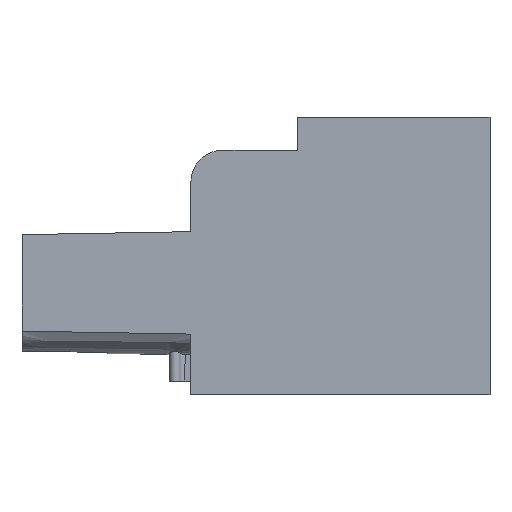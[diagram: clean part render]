
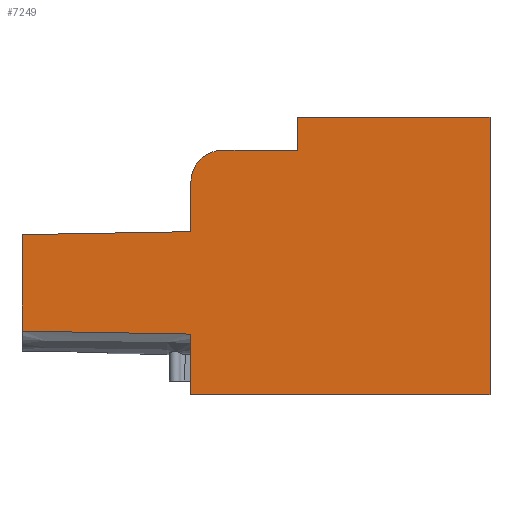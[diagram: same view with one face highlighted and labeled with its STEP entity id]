
A CAD part, front view. The second image highlights one B-rep face of the part: STEP entity #7249.
In plain terms, the highlighted planar face has unit normal (0, -1, 0).
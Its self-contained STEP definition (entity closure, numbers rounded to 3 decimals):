
#471=DIRECTION('',(1.,0.,0.));
#472=VECTOR('',#471,14.);
#473=CARTESIAN_POINT('',(7.9,6.581,-13.));
#474=LINE('',#473,#472);
#533=DIRECTION('',(0.,0.,-1.));
#534=VECTOR('',#533,2.846);
#535=CARTESIAN_POINT('',(7.9,6.581,-10.154));
#536=LINE('',#535,#534);
#586=DIRECTION('',(0.,0.,-1.));
#587=VECTOR('',#586,4.516);
#588=CARTESIAN_POINT('',(0.,6.581,-5.5));
#589=LINE('',#588,#587);
#800=DIRECTION('',(0.,0.,-1.));
#801=VECTOR('',#800,2.312);
#802=CARTESIAN_POINT('',(7.9,6.581,-3.05));
#803=LINE('',#802,#801);
#839=DIRECTION('',(-1.,0.,0.));
#840=VECTOR('',#839,3.5);
#841=CARTESIAN_POINT('',(12.9,6.581,-1.55));
#842=LINE('',#841,#840);
#869=DIRECTION('',(0.,0.,-1.));
#870=VECTOR('',#869,1.55);
#871=CARTESIAN_POINT('',(12.9,6.581,0.));
#872=LINE('',#871,#870);
#917=DIRECTION('',(-1.,0.,0.));
#918=VECTOR('',#917,9.);
#919=CARTESIAN_POINT('',(21.9,6.581,0.));
#920=LINE('',#919,#918);
#961=DIRECTION('',(0.,0.,1.));
#962=VECTOR('',#961,13.);
#963=CARTESIAN_POINT('',(21.9,6.581,-13.));
#964=LINE('',#963,#962);
#989=DIRECTION('',(-1.,0.,0.017));
#990=VECTOR('',#989,7.901);
#991=CARTESIAN_POINT('',(7.9,6.581,-10.154));
#992=LINE('',#991,#990);
#993=DIRECTION('',(1.,0.,0.017));
#994=VECTOR('',#993,7.901);
#995=CARTESIAN_POINT('',(0.,6.581,-5.5));
#996=LINE('',#995,#994);
#997=CARTESIAN_POINT('',(9.4,6.581,-3.05));
#998=DIRECTION('',(0.,1.,0.));
#999=DIRECTION('',(-1.,0.,0.));
#1000=AXIS2_PLACEMENT_3D('',#997,#998,#999);
#4672=CARTESIAN_POINT('',(0.,6.581,-5.5));
#4673=VERTEX_POINT('',#4672);
#4674=CARTESIAN_POINT('',(0.,6.581,
-10.016));
#4675=VERTEX_POINT('',#4674);
#4804=CARTESIAN_POINT('',(7.9,6.581,-3.05));
#4805=VERTEX_POINT('',#4804);
#4806=CARTESIAN_POINT('',(7.9,6.581,-5.362));
#4807=VERTEX_POINT('',#4806);
#4816=CARTESIAN_POINT('',(9.4,6.581,-1.55));
#4817=VERTEX_POINT('',#4816);
#4818=CARTESIAN_POINT('',(12.9,6.581,-1.55));
#4819=VERTEX_POINT('',#4818);
#4842=CARTESIAN_POINT('',(12.9,6.581,0.));
#4843=VERTEX_POINT('',#4842);
#4882=CARTESIAN_POINT('',(21.9,6.581,0.));
#4883=VERTEX_POINT('',#4882);
#4920=CARTESIAN_POINT('',(21.9,6.581,-13.));
#4921=VERTEX_POINT('',#4920);
#4930=CARTESIAN_POINT('',(7.9,6.581,-13.));
#4931=VERTEX_POINT('',#4930);
#4994=CARTESIAN_POINT('',(7.9,6.581,-10.154));
#4995=VERTEX_POINT('',#4994);
#7229=CARTESIAN_POINT('',(7.9,6.581,-11.));
#7230=DIRECTION('',(0.,1.,0.));
#7231=DIRECTION('',(1.,0.,0.));
#7232=AXIS2_PLACEMENT_3D('',#7229,#7230,#7231);
#7233=PLANE('',#7232);
#7234=ORIENTED_EDGE('',*,*,#6799,.F.);
#7236=ORIENTED_EDGE('',*,*,#7235,.T.);
#7237=ORIENTED_EDGE('',*,*,#6857,.F.);
#7239=ORIENTED_EDGE('',*,*,#7238,.T.);
#7240=ORIENTED_EDGE('',*,*,#7021,.F.);
#7241=ORIENTED_EDGE('',*,*,#7048,.T.);
#7242=ORIENTED_EDGE('',*,*,#7063,.F.);
#7243=ORIENTED_EDGE('',*,*,#7097,.F.);
#7244=ORIENTED_EDGE('',*,*,#7152,.F.);
#7245=ORIENTED_EDGE('',*,*,#7211,.F.);
#7246=ORIENTED_EDGE('',*,*,#6716,.F.);
#7247=EDGE_LOOP('',(#7234,#7236,#7237,#7239,#7240,#7241,#7242,#7243,#7244,#7245,
#7246));
#7248=FACE_OUTER_BOUND('',#7247,.F.);
#7249=ADVANCED_FACE('',(#7248),#7233,.F.);
#1001=CIRCLE('',#1000,1.5);
#6716=EDGE_CURVE('',#4931,#4921,#474,.T.);
#6799=EDGE_CURVE('',#4995,#4931,#536,.T.);
#6857=EDGE_CURVE('',#4673,#4675,#589,.T.);
#7021=EDGE_CURVE('',#4805,#4807,#803,.T.);
#7048=EDGE_CURVE('',#4805,#4817,#1001,.T.);
#7063=EDGE_CURVE('',#4819,#4817,#842,.T.);
#7097=EDGE_CURVE('',#4843,#4819,#872,.T.);
#7152=EDGE_CURVE('',#4883,#4843,#920,.T.);
#7211=EDGE_CURVE('',#4921,#4883,#964,.T.);
#7235=EDGE_CURVE('',#4995,#4675,#992,.T.);
#7238=EDGE_CURVE('',#4673,#4807,#996,.T.);
